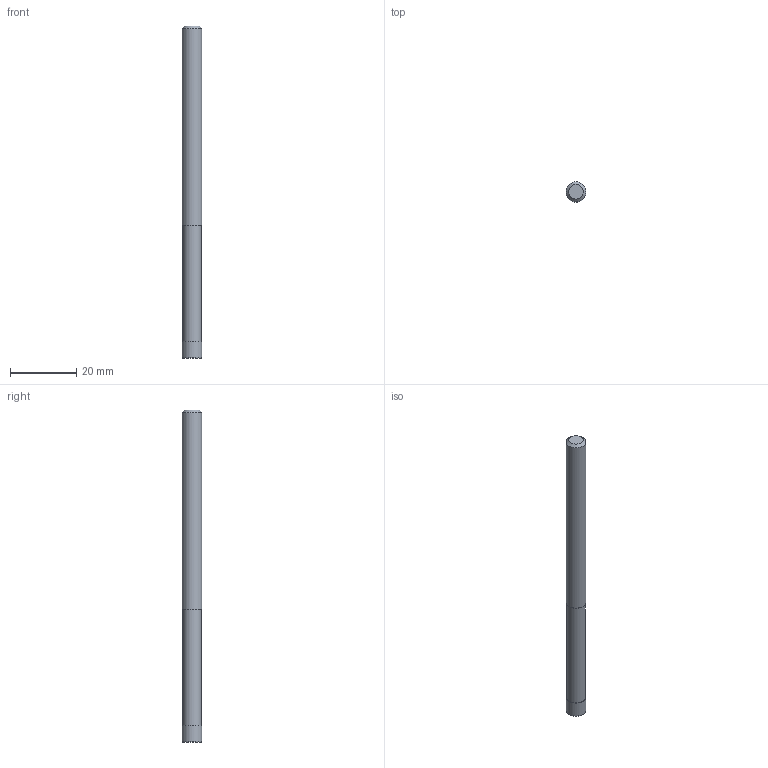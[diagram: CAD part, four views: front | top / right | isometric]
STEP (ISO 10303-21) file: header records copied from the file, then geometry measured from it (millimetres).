
FILE_DESCRIPTION((''),'2;1');
FILE_NAME('C:\Users\nsx150\AppData\Local\Temp\Mastercam 2021\CSMVKW3037\TEMP.step','2023-06-23T16:05:25',(''),(''),'STEP Write','Mastercam 2021 ... CNC Software, Inc.','');
FILE_SCHEMA(('AUTOMOTIVE_DESIGN'));
Length unit declared in the file: millimetre
Products named in the file (1): None
Bounding box: 6 x 6 x 100 mm (x, y, z)
Volume: 2725.3 mm3; surface area: 1953.8 mm2
Topology: 2 solids, 2 shells, 10 faces, 13 edges, 8 vertices
Faces by surface type: plane 5, cylinder 3, torus 1, cone 1
Full cylindrical faces by diameter (mm): 5.7 x1, 6 x2
Entity records: 232 total; most frequent: DIRECTION 40, CARTESIAN_POINT 28, AXIS2_PLACEMENT_3D 20, ORIENTED_EDGE 16, EDGE_LOOP 16, STYLED_ITEM 13, ADVANCED_FACE 10, FACE_BOUND 10
